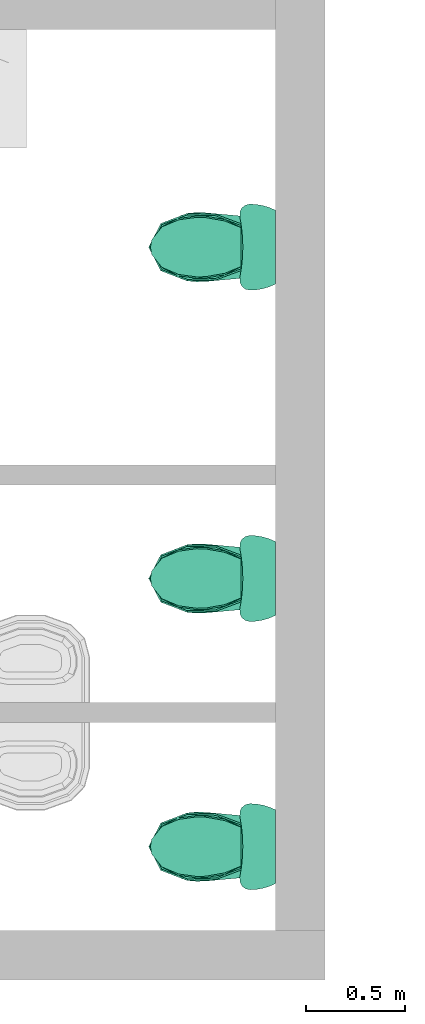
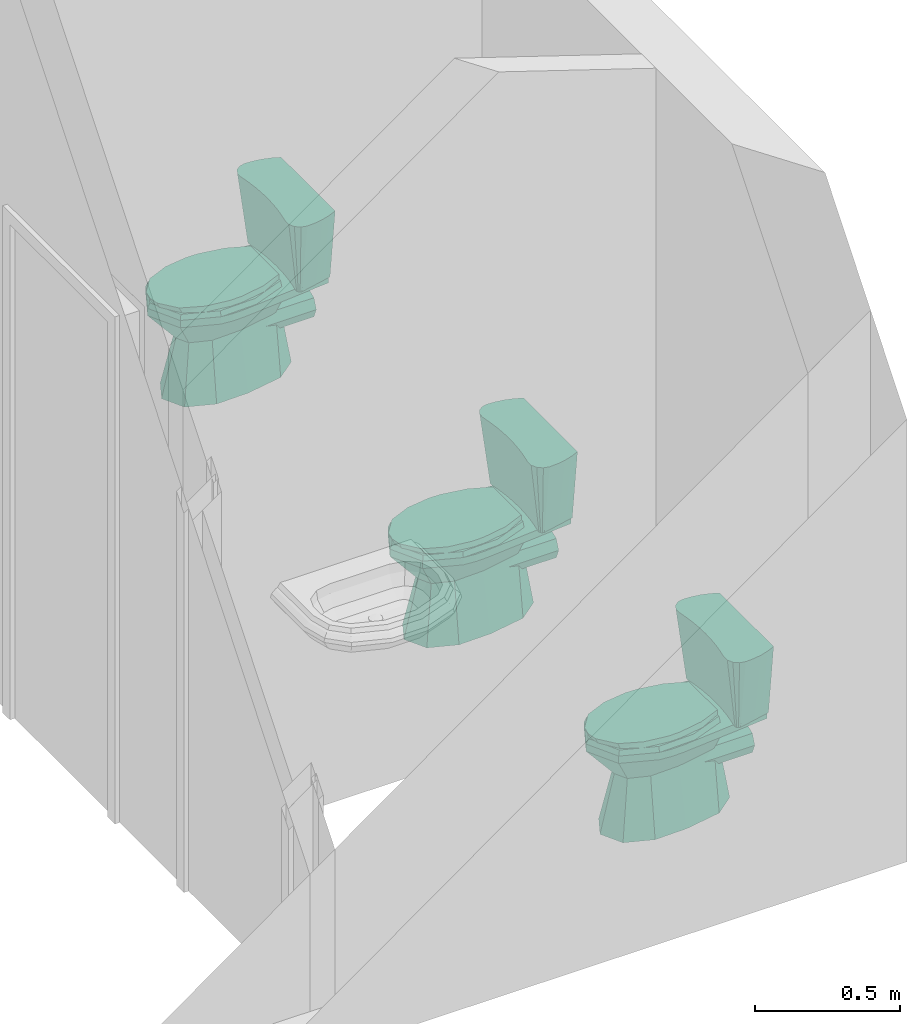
# One storey, part 21 of 25: 3 distribution flow elements.
"""IFC2X3 building model written with IfcOpenShell, lengths in millimetres."""

from ifc_helpers import new_model, entity, si_unit, converted_unit, derived_unit, money_unit, direction, frame, origin_with_axes, place, context, subcontext, project, spatial, open_shell, faceted_brep, surface_model, source, transform, mapped, type_object, element, save


model = new_model("IFC2X3")

# Units and contexts
model_context = context("Model", 3, precision=0.01, world=origin_with_axes(), true_north=direction((0.0, 1.0)))
body_context = subcontext(model_context, "Body", "Model", "MODEL_VIEW")
ifc_project = project(units=[si_unit("LENGTHUNIT", "METRE", prefix="MILLI"), si_unit("AREAUNIT", "SQUARE_METRE"), si_unit("VOLUMEUNIT", "CUBIC_METRE"), converted_unit("PLANEANGLEUNIT", "DEGREE", entity("IfcPlaneAngleMeasure", 0.0174532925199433), si_unit("PLANEANGLEUNIT", "RADIAN"), dimensions=[0, 0, 0, 0, 0, 0, 0]), money_unit("USD"), converted_unit("TIMEUNIT", "Year", entity("IfcTimeMeasure", 31557600.0), si_unit("TIMEUNIT", "SECOND"), dimensions=[0, 0, 1, 0, 0, 0, 0]), si_unit("MASSUNIT", "GRAM", prefix="KILO"), si_unit("THERMODYNAMICTEMPERATUREUNIT", "DEGREE_CELSIUS"), si_unit("LUMINOUSINTENSITYUNIT", "LUMEN"), si_unit("ENERGYUNIT", "JOULE", prefix="MEGA"), derived_unit("THERMALCONDUCTANCEUNIT", [(si_unit("POWERUNIT", "WATT"), 1), (si_unit("LENGTHUNIT", "METRE"), -1), (si_unit("THERMODYNAMICTEMPERATUREUNIT", "KELVIN"), -1)]), derived_unit("SPECIFICHEATCAPACITYUNIT", [(si_unit("ENERGYUNIT", "JOULE"), 1), (si_unit("MASSUNIT", "GRAM", prefix="KILO"), -1), (si_unit("THERMODYNAMICTEMPERATUREUNIT", "KELVIN"), -1)]), derived_unit("MASSDENSITYUNIT", [(si_unit("MASSUNIT", "GRAM", prefix="KILO"), 1), (si_unit("VOLUMEUNIT", "CUBIC_METRE"), -1)])], contexts=[model_context])

# Site, building, storey
site_placement = place(None, origin_with_axes())
site = spatial("IfcSite", under=ifc_project, at=site_placement, Name="Site", CompositionType="ELEMENT")
building_placement = place(site_placement, origin_with_axes())
building = spatial("IfcBuilding", under=site, at=building_placement, Name="Building", CompositionType="ELEMENT")
storey_placement = place(building_placement, origin_with_axes())
storey = spatial("IfcBuildingStorey", under=building, at=storey_placement, Name="U ETG", CompositionType="ELEMENT", Elevation=0.0)

# Distribution flow elements
valve_type = type_object("IfcValveType", Name="WC", PredefinedType="USERDEFINED")
shared_shape = source(origin_with_axes(), body_context, "Body", "SurfaceModel", [
    faceted_brep([(40.30508652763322, -205.7142857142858, 245.4332916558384), (0.0, -205.7142857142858, 262.1282051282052), (-40.30508652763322, -205.7142857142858, 245.4332916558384), (-57.00000000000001, -205.7142857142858, 205.1282051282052), (-40.30508652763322, -205.7142857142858, 164.823118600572), (0.0, -205.7142857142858, 148.1282051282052), (40.30508652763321, -205.7142857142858, 164.823118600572), (57.0, -205.7142857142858, 205.1282051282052), (40.30508652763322, 0.0, 245.4332916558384), (0.0, 0.0, 262.1282051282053), (-40.30508652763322, 0.0, 245.4332916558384), (-57.00000000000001, 0.0, 205.1282051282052), (-40.30508652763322, 0.0, 164.823118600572), (0.0, 0.0, 148.1282051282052), (40.30508652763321, 0.0, 164.823118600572), (57.0, 0.0, 205.1282051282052)], [[[0, 1, 2, 3, 4, 5, 6, 7]], [[1, 0, 8, 9]], [[2, 1, 9, 10]], [[3, 2, 10, 11]], [[4, 3, 11, 12]], [[5, 4, 12, 13]], [[6, 5, 13, 14]], [[7, 6, 14, 15]], [[0, 7, 15, 8]], [[8, 15, 14, 13, 12, 11, 10, 9]]]),
    surface_model("IfcShellBasedSurfaceModel", [(84.12941176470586, -541.2264773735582, 0.0), (123.3490196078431, -435.6917834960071, 0.0), (75.02254901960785, -425.689157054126, 235.8974358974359), (0.0, -584.3319254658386, 0.0), (-84.12941176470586, -541.2264773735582, 0.0), (-123.3490196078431, -435.6917834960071, 0.0), (-120.4490196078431, -307.7678793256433, 0.0), (-95.01078431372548, -164.0364862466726, 0.0), (-31.65098039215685, -85.44312333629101, 0.0), (31.65098039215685, -85.44312333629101, 0.0), (95.01078431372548, -164.0364862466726, 0.0), (120.4490196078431, -307.7678793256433, 0.0), (71.04803921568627, -309.5589707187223, 235.8974358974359), (47.80882352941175, -502.9639041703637, 235.8974358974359), (0.0, -527.4599467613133, 235.8974358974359), (-47.80882352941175, -502.9639041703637, 235.8974358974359), (-75.02254901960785, -425.689157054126, 235.8974358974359), (-71.04803921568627, -309.5589707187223, 235.8974358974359), (-41.58039215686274, -153.6, 235.8974358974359), (-13.7156862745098, -119.9417923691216, 235.8974358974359), (13.7156862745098, -119.9417923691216, 235.8974358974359), (41.58039215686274, -153.6, 235.8974358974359)], [open_shell([[[0, 1, 2]], [[0, 3, 4, 5, 6, 7, 8, 9, 10, 11, 1]], [[1, 12, 2]], [[0, 2, 13]], [[3, 0, 13]], [[4, 3, 14]], [[5, 4, 15]], [[6, 5, 16]], [[7, 6, 17]], [[8, 7, 18]], [[9, 8, 19, 20]], [[10, 9, 20]], [[11, 10, 21]], [[1, 11, 12]], [[3, 13, 14]], [[4, 14, 15]], [[5, 15, 16]], [[6, 16, 17]], [[7, 17, 18]], [[8, 18, 19]], [[10, 20, 21]], [[11, 21, 12]]])]),
    surface_model("IfcShellBasedSurfaceModel", [(47.80882352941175, -502.9639041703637, 235.8974358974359), (75.02254901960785, -425.689157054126, 235.8974358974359), (170.6529411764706, -445.4820230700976, 369.2307692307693), (0.0, -527.4599467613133, 235.8974358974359), (-47.80882352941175, -502.9639041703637, 235.8974358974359), (-75.02254901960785, -425.689157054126, 235.8974358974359), (-71.04803921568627, -309.5589707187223, 235.8974358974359), (-41.58039215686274, -153.6, 235.8974358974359), (-13.7156862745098, -119.9417923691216, 235.8974358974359), (13.7156862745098, -119.9417923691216, 235.8974358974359), (41.58039215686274, -153.6, 235.8974358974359), (71.04803921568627, -309.5589707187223, 235.8974358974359), (164.9843137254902, -294.0524578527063, 369.2307692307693), (119.6803921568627, -578.6781188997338, 369.2307692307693), (0.0, -640.0, 369.2307692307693), (-119.6803921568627, -578.6781188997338, 369.2307692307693), (-170.6529411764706, -445.4820230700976, 369.2307692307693), (-164.9843137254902, -294.051322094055, 369.2307692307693), (-101.8950980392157, -139.959538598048, 369.2307692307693), (-29.25392156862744, -84.95815439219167, 369.2307692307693), (29.25392156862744, -84.95815439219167, 369.2307692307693), (101.8950980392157, -139.959538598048, 369.2307692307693)], [open_shell([[[0, 1, 2]], [[0, 3, 4, 5, 6, 7, 8, 9, 10, 11, 1]], [[1, 12, 2]], [[0, 2, 13]], [[3, 0, 13]], [[4, 3, 14]], [[5, 4, 15]], [[6, 5, 16]], [[7, 6, 17]], [[8, 7, 18]], [[9, 8, 19, 20]], [[10, 9, 20]], [[11, 10, 21]], [[1, 11, 12]], [[3, 13, 14]], [[4, 14, 15]], [[5, 15, 16]], [[6, 16, 17]], [[7, 17, 18]], [[8, 18, 19]], [[10, 20, 21]], [[11, 21, 12]]])]),
    surface_model("IfcShellBasedSurfaceModel", [(45.41838235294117, -515.3940102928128, 276.923076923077), (71.27142156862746, -455.1197075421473, 276.923076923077), (162.1202941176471, -470.5581430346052, 369.2307692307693), (0.0, -534.5009235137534, 276.923076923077), (-45.41838235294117, -515.3940102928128, 276.923076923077), (-71.27142156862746, -455.1197075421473, 276.923076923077), (-67.49563725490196, -364.5381622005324, 276.923076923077), (-39.50137254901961, -242.890165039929, 276.923076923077), (-13.02990196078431, -216.6367630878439, 276.923076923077), (13.02990196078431, -216.6367630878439, 276.923076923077), (39.50137254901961, -242.890165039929, 276.923076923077), (67.49563725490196, -364.5381622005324, 276.923076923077), (156.7350980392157, -352.4430821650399, 369.2307692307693), (113.6963725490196, -574.4510977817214, 369.2307692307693), (0.0, -622.282165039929, 369.2307692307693), (-113.6963725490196, -574.4510977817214, 369.2307692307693), (-162.1202941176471, -470.5581430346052, 369.2307692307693), (-156.7350980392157, -352.4421962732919, 369.2307692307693), (-96.8003431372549, -232.2506051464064, 369.2307692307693), (-27.79122549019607, -189.3495254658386, 369.2307692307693), (27.79122549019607, -189.3495254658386, 369.2307692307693), (96.8003431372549, -232.2506051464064, 369.2307692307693)], [open_shell([[[0, 1, 2]], [[0, 3, 4, 5, 6, 7, 8, 9, 10, 11, 1]], [[1, 12, 2]], [[0, 2, 13]], [[3, 0, 13]], [[4, 3, 14]], [[5, 4, 15]], [[6, 5, 16]], [[7, 6, 17]], [[8, 7, 18]], [[9, 8, 19, 20]], [[10, 9, 20]], [[11, 10, 21]], [[1, 11, 12]], [[3, 13, 14]], [[4, 14, 15]], [[5, 15, 16]], [[6, 16, 17]], [[7, 17, 18]], [[8, 18, 19]], [[10, 20, 21]], [[11, 21, 12]]])]),
    faceted_brep([(-175.0058823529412, -398.0504702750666, 369.2307692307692), (-173.5294117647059, -350.3815439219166, 369.2307692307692), (-141.121568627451, 0.002271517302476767, 369.2307692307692), (141.1235294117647, 0.002271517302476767, 369.2307692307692), (173.5294117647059, -350.3815439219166, 369.2307692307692), (175.0058823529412, -398.0504702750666, 369.2307692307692), (170.6529411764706, -445.4820230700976, 369.2307692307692), (119.6803921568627, -578.6781188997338, 369.2307692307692), (0.0, -640.0, 369.2307692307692), (-119.6803921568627, -578.6781188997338, 369.2307692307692), (-170.6529411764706, -445.4820230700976, 369.2307692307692), (83.77627450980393, -540.2867506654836, 369.2307692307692), (119.4570588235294, -447.0494835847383, 369.2307692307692), (122.5041176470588, -413.8473966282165, 369.2307692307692), (121.4705882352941, -380.4791481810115, 369.2307692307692), (98.78647058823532, -230.6142040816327, 369.2307692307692), (-98.78509803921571, -230.6142040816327, 369.2307692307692), (-121.4705882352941, -380.4791481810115, 369.2307692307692), (-122.5041176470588, -413.8473966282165, 369.2307692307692), (-119.4570588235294, -447.0494835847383, 369.2307692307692), (-83.77627450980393, -540.2867506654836, 369.2307692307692), (0.0, -583.21206743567, 369.2307692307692), (-173.5294117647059, -350.3815439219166, 400.0), (-175.0058823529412, -398.0504702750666, 400.0), (-141.121568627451, 0.002271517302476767, 400.0), (141.1235294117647, 0.002271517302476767, 400.0), (173.5294117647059, -350.3815439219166, 400.0), (175.0058823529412, -398.0504702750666, 400.0), (170.6529411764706, -445.4820230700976, 400.0), (119.6803921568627, -578.6781188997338, 400.0), (0.0, -640.0, 400.0), (-119.6803921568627, -578.6781188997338, 400.0), (-170.6529411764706, -445.4820230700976, 400.0), (83.77627450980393, -540.2867506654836, 400.0), (119.4570588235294, -447.0494835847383, 400.0), (122.5041176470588, -413.8473966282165, 400.0), (121.4705882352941, -380.4791481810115, 400.0), (98.78647058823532, -230.6142040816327, 400.0), (-98.78509803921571, -230.6142040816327, 400.0), (-121.4705882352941, -380.4791481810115, 400.0), (-122.5041176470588, -413.8473966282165, 400.0), (-119.4570588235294, -447.0494835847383, 400.0), (-83.77627450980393, -540.2867506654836, 400.0), (0.0, -583.21206743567, 400.0)], [[[0, 1, 2, 3, 4, 5, 6, 7, 8, 9, 10], [11, 12, 13, 14, 15, 16, 17, 18, 19, 20, 21]], [[22, 1, 0, 23]], [[24, 2, 1, 22]], [[25, 3, 2, 24]], [[26, 4, 3, 25]], [[27, 5, 4, 26]], [[28, 6, 5, 27]], [[29, 7, 6, 28]], [[30, 8, 7, 29]], [[31, 9, 8, 30]], [[32, 10, 9, 31]], [[23, 0, 10, 32]], [[33, 34, 12, 11]], [[34, 35, 13, 12]], [[35, 36, 14, 13]], [[36, 37, 15, 14]], [[37, 38, 16, 15]], [[38, 39, 17, 16]], [[39, 40, 18, 17]], [[40, 41, 19, 18]], [[41, 42, 20, 19]], [[42, 43, 21, 20]], [[43, 33, 11, 21]], [[24, 22, 23, 32, 31, 30, 29, 28, 27, 26, 25], [37, 36, 35, 34, 33, 43, 42, 41, 40, 39, 38]]]),
    faceted_brep([(170.4738719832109, -445.482713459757, 400.0), (119.5548093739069, -578.6783365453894, 400.0), (0.0, -640.0, 400.0), (-119.5548093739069, -578.6783365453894, 400.0), (-170.4738719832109, -445.482713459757, 400.0), (-166.4663168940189, -302.2015893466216, 400.0), (-118.2121021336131, -172.9329743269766, 400.0), (118.2121021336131, -172.9329743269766, 400.0), (166.4663168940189, -302.2015893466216, 400.0), (87.07689659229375, -470.8529844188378, 400.0), (94.51085540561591, -436.8872036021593, 400.0), (97.71606496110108, -402.0552291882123, 400.0), (96.61425296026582, -366.5633495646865, 400.0), (90.99294096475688, -327.7648838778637, 400.0), (81.3288631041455, -289.5292657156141, 400.0), (68.75448552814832, -255.390084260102, 400.0), (-68.75412876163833, -255.390084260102, 400.0), (-81.32895397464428, -289.5296252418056, 400.0), (-90.99294096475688, -327.7648838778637, 400.0), (-96.61425296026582, -366.5633495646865, 400.0), (-97.71606496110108, -402.0552291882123, 400.0), (-94.51085540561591, -436.8872036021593, 400.0), (-87.07689659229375, -470.8529844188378, 400.0), (-76.48880040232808, -500.6600804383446, 400.0), (-62.06856874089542, -525.0585284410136, 400.0), (-44.26109835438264, -542.1791505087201, 400.0), (-23.02579943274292, -553.0312015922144, 400.0), (0.0, -556.7479615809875, 400.0), (23.02579943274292, -553.0312015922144, 400.0), (44.26109835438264, -542.1791505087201, 400.0), (62.0685687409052, -525.0585284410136, 400.0), (76.48880040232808, -500.6600804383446, 400.0), (162.8034977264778, -443.8937927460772, 420.0000000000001), (113.7912556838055, -572.5997778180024, 420.0000000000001), (0.0, -630.9650719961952, 420.0000000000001), (-113.7912556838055, -572.5997778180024, 420.0000000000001), (-162.8034977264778, -443.8937927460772, 420.0000000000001), (-158.5902763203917, -302.7808242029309, 420.0000000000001), (-108.940468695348, -172.9329743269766, 420.0000000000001), (108.940468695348, -172.9329743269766, 420.0000000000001), (158.5902763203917, -302.7808242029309, 420.0000000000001), (87.07689659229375, -470.8529844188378, 420.0000000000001), (94.51085540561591, -436.8872036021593, 420.0000000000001), (97.71606496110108, -402.0552291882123, 420.0000000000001), (96.61425296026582, -366.5633495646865, 420.0000000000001), (90.99294096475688, -327.7648838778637, 420.0000000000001), (81.3288631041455, -289.5292657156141, 420.0000000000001), (68.75448552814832, -255.390084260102, 420.0000000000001), (-68.75412876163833, -255.390084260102, 420.0000000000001), (-81.32895397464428, -289.5296252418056, 420.0000000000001), (-90.99294096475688, -327.7648838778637, 420.0000000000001), (-96.61425296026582, -366.5633495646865, 420.0000000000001), (-97.71606496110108, -402.0552291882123, 420.0000000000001), (-94.51085540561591, -436.8872036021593, 420.0000000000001), (-87.07689659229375, -470.8529844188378, 420.0000000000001), (-76.48880040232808, -500.6600804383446, 420.0000000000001), (-62.06856874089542, -525.0585284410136, 420.0000000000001), (-44.26109835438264, -542.1791505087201, 420.0000000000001), (-23.02579943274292, -553.0312015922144, 420.0000000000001), (0.0, -556.7479615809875, 420.0000000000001), (23.02579943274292, -553.0312015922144, 420.0000000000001), (44.26109835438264, -542.1791505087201, 420.0000000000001), (62.0685687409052, -525.0585284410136, 420.0000000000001), (76.48880040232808, -500.6600804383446, 420.0000000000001)], [[[0, 1, 2, 3, 4, 5, 6, 7, 8], [9, 10, 11, 12, 13, 14, 15, 16, 17, 18, 19, 20, 21, 22, 23, 24, 25, 26, 27, 28, 29, 30, 31]], [[1, 0, 32]], [[2, 1, 33]], [[3, 2, 34]], [[4, 3, 35]], [[5, 4, 36]], [[6, 5, 37]], [[6, 38, 39, 7]], [[8, 7, 39]], [[0, 8, 40]], [[41, 42, 10, 9]], [[42, 43, 11, 10]], [[43, 44, 12, 11]], [[44, 45, 13, 12]], [[45, 46, 14, 13]], [[46, 47, 15, 14]], [[47, 48, 16, 15]], [[48, 49, 17, 16]], [[49, 50, 18, 17]], [[50, 51, 19, 18]], [[51, 52, 20, 19]], [[52, 53, 21, 20]], [[53, 54, 22, 21]], [[54, 55, 23, 22]], [[55, 56, 24, 23]], [[56, 57, 25, 24]], [[57, 58, 26, 25]], [[58, 59, 27, 26]], [[59, 60, 28, 27]], [[60, 61, 29, 28]], [[61, 62, 30, 29]], [[62, 63, 31, 30]], [[63, 41, 9, 31]], [[0, 40, 32]], [[1, 32, 33]], [[2, 33, 34]], [[3, 34, 35]], [[4, 35, 36]], [[5, 36, 37]], [[6, 37, 38]], [[38, 37, 36, 35, 34, 33, 32, 40, 39], [45, 44, 43, 42, 41, 63, 62, 61, 60, 59, 58, 57, 56, 55, 54, 53, 52, 51, 50, 49, 48, 47, 46]], [[8, 39, 40]]]),
    faceted_brep([(-107.5993284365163, -565.0492811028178, 420.0000000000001), (-39.85813221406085, -615.7891187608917, 420.0000000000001), (-37.93662119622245, -624.1357794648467, 440.0000000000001), (-144.3504302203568, -491.7260985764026, 420.0000000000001), (-157.3400209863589, -398.0513290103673, 420.0000000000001), (-156.01259181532, -350.3825718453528, 420.0000000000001), (-139.3844700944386, -255.2506291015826, 420.0000000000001), (-99.17339219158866, -172.9329743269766, 420.0000000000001), (99.17339219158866, -172.9329743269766, 420.0000000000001), (139.3844700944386, -255.2506291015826, 420.0000000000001), (156.01259181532, -350.3825718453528, 420.0000000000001), (157.3400209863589, -398.0513290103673, 420.0000000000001), (144.3513116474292, -491.7260985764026, 420.0000000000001), (107.5993284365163, -565.0492811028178, 420.0000000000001), (39.85813221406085, -615.7891187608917, 420.0000000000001), (0.0, -622.9636806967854, 420.0000000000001), (0.0, -630.9650719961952, 440.0000000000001), (-102.412130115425, -572.5997778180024, 440.0000000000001), (-137.6912486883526, -488.8969338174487, 440.0000000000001), (-150.3317943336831, -397.7344534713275, 440.0000000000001), (-149.0405036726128, -351.3456917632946, 440.0000000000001), (-132.0192654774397, -255.5152599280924, 440.0000000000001), (-98.04642182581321, -172.9329743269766, 440.0000000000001), (98.04642182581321, -172.9329743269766, 440.0000000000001), (132.0192654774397, -255.5152599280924, 440.0000000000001), (149.0405036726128, -351.3456917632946, 440.0000000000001), (150.3317943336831, -397.7344534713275, 440.0000000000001), (137.6912486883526, -488.8969338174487, 440.0000000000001), (102.412130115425, -572.5997778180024, 440.0000000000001), (37.93662119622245, -624.1357794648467, 440.0000000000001)], [[[0, 1, 2]], [[0, 3, 4, 5, 6, 7, 8, 9, 10, 11, 12, 13, 14, 15, 1]], [[1, 16, 2]], [[0, 2, 17]], [[3, 0, 17]], [[4, 3, 18]], [[5, 4, 19]], [[6, 5, 20]], [[7, 6, 21]], [[8, 7, 22, 23]], [[9, 8, 23]], [[10, 9, 24]], [[11, 10, 25]], [[12, 11, 26]], [[13, 12, 27]], [[14, 13, 28]], [[15, 14, 29]], [[1, 15, 16]], [[17, 2, 16, 29, 28, 27, 26, 25, 24, 23, 22, 21, 20, 19, 18]], [[3, 17, 18]], [[4, 18, 19]], [[5, 19, 20]], [[6, 20, 21]], [[7, 21, 22]], [[9, 23, 24]], [[10, 24, 25]], [[11, 25, 26]], [[12, 26, 27]], [[13, 27, 28]], [[14, 28, 29]], [[15, 29, 16]]]),
    faceted_brep([(0.001, -126.7509859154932, 400.0), (40.757, -127.7727036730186, 400.0), (38.86899999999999, -165.3933112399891, 700.0), (-40.755, -127.7727036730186, 400.0), (-81.40799999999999, -130.8328583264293, 400.0), (-121.857, -135.925451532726, 400.0), (-162.0, -143.0364871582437, 400.0), (-168.526, -142.899524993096, 400.0), (-174.364, -139.9803314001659, 400.0), (-178.387, -134.8427506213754, 400.0), (-179.821, -128.4765092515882, 400.0), (-172.643, -96.35738193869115, 400.0), (-165.466, -64.23825462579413, 400.0), (-158.288, -32.11912731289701, 400.0), (-151.111, 0.0, 400.0), (151.113, 0.0, 400.0), (158.288, -32.11912731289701, 400.0), (165.467, -64.23825462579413, 400.0), (172.647, -96.35738193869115, 400.0), (179.822, -128.4765092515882, 400.0), (178.389, -134.8427506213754, 400.0), (174.366, -139.9803314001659, 400.0), (168.528, -142.899524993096, 400.0), (162.002, -143.0364871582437, 400.0), (121.859, -135.925451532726, 400.0), (81.40999999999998, -130.8328583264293, 400.0), (77.64, -168.3115051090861, 700.0), (0.001, -164.4195802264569, 700.0), (-38.86799999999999, -165.3933112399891, 700.0), (-77.638, -168.3115051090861, 700.0), (-116.214, -173.1681634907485, 700.0), (-154.499, -179.9502899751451, 700.0), (-177.569, -179.4664236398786, 700.0), (-198.207, -169.1472742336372, 700.0), (-212.431, -150.9822921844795, 700.0), (-217.499, -128.4765092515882, 700.0), (-215.545, -95.22269538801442, 700.0), (-209.709, -62.42675504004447, 700.0), (-200.072, -30.53956365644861, 700.0), (-186.767, 0.0, 700.0), (186.769, 0.0, 700.0), (200.074, -30.53956365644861, 700.0), (209.711, -62.42675504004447, 700.0), (215.547, -95.22269538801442, 700.0), (217.501, -128.4765092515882, 700.0), (212.433, -150.9822921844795, 700.0), (198.209, -169.1472742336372, 700.0), (177.571, -179.4664236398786, 700.0), (154.501, -179.9502899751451, 700.0), (116.216, -173.1681634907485, 700.0)], [[[0, 1, 2]], [[0, 3, 4, 5, 6, 7, 8, 9, 10, 11, 12, 13, 14, 15, 16, 17, 18, 19, 20, 21, 22, 23, 24, 25, 1]], [[1, 26, 2]], [[0, 2, 27]], [[3, 0, 27]], [[4, 3, 28]], [[5, 4, 29]], [[6, 5, 30]], [[7, 6, 31]], [[8, 7, 32]], [[9, 8, 33]], [[10, 9, 34]], [[11, 10, 35]], [[12, 11, 36]], [[13, 12, 37]], [[14, 13, 38]], [[15, 14, 39, 40]], [[16, 15, 40]], [[17, 16, 41]], [[18, 17, 42]], [[19, 18, 43]], [[20, 19, 44]], [[21, 20, 45]], [[22, 21, 46]], [[23, 22, 47]], [[24, 23, 48]], [[25, 24, 49]], [[1, 25, 26]], [[27, 2, 26, 49, 48, 47, 46, 45, 44, 43, 42, 41, 40, 39, 38, 37, 36, 35, 34, 33, 32, 31, 30, 29, 28]], [[3, 27, 28]], [[4, 28, 29]], [[5, 29, 30]], [[6, 30, 31]], [[7, 31, 32]], [[8, 32, 33]], [[9, 33, 34]], [[10, 34, 35]], [[11, 35, 36]], [[12, 36, 37]], [[13, 37, 38]], [[14, 38, 39]], [[16, 40, 41]], [[17, 41, 42]], [[18, 42, 43]], [[19, 43, 44]], [[20, 44, 45]], [[21, 45, 46]], [[22, 46, 47]], [[23, 47, 48]], [[24, 48, 49]], [[25, 49, 26]]]),
])
for number, where, z_axis, x_axis, name in (
    (1, (70424.66405753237, 3579.78326248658, 0.0), (0.0, 0.0, 1.0), (-4.251356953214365e-05, -0.9999999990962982, 0.0), "FU - 001"),
    (2, (70424.5351385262, 552.6449369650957, 0.0), (0.0, 0.0, 1.0), (-4.237757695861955e-05, -0.9999999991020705, 0.0), "FU - 001"),
    (3, (70424.5928312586, 1906.783239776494, 0.0), (0.0, 0.0, 1.0), (-4.237757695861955e-05, -0.9999999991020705, 0.0), "FU - 001"),
):
    element("IfcDistributionFlowElement", number, at=place(storey_placement, frame(where, z_axis=z_axis, x_axis=x_axis)), inside=storey, type_object=valve_type, Name=name, ObjectType="Distribution Flow Element", context=body_context, shape_type="MappedRepresentation", body=[
        mapped(shared_shape, transform((0.0, 0.0, 0.0))),
    ])

save(model, "model.ifc")
